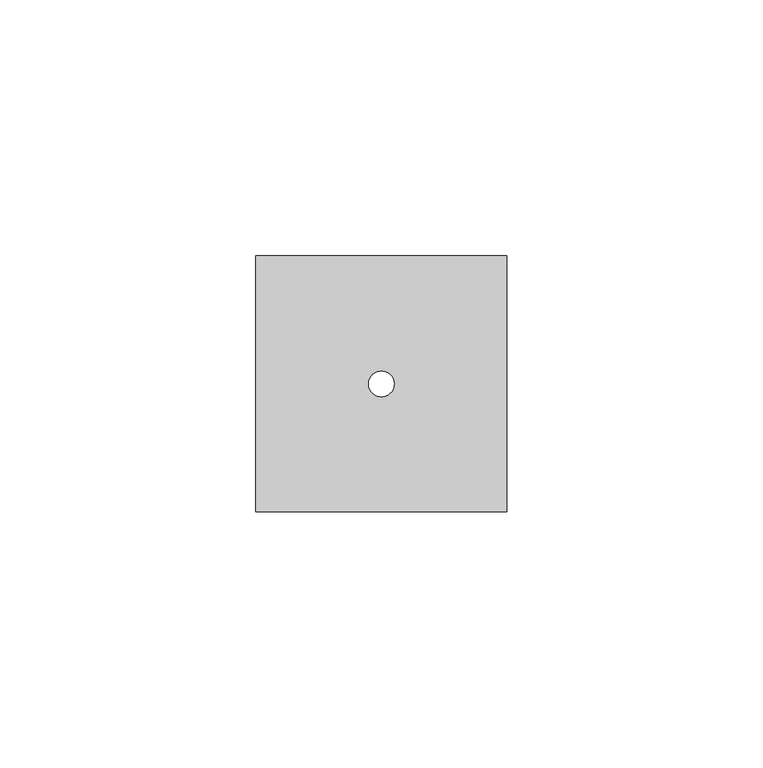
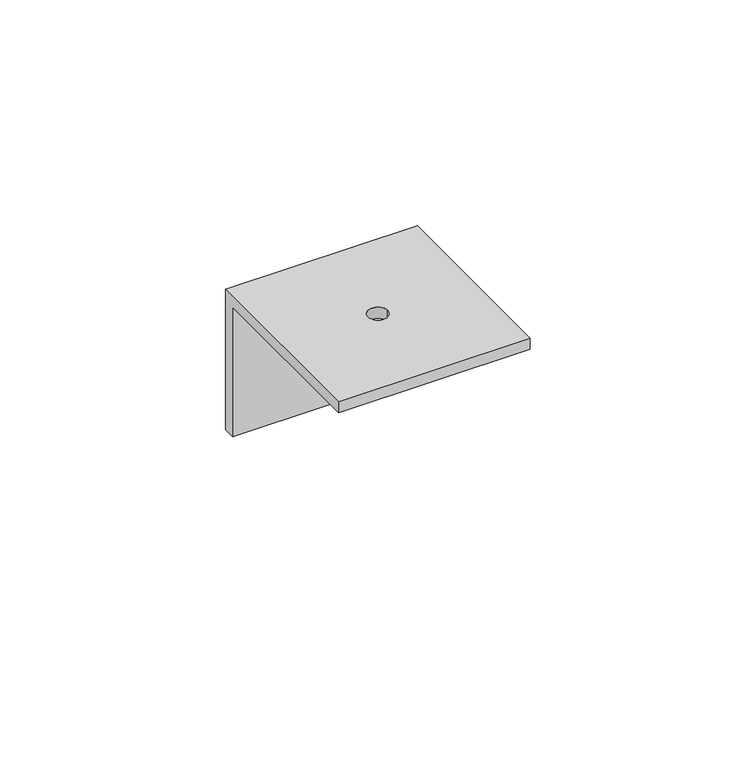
"""IFC4 building model written with IfcOpenShell, lengths in millimetres: proxy geometry, CV-EP8-02 END CAP : CV-EP8-02 END CAP."""

from ifc_helpers import new_model, si_unit, frame, origin, place, context, project, spatial, polyline, circle_curve, source, transform, mapped, element, save
from ifc_brep_helpers import plane_surface, revolved_surface, advanced_brep


def generic_models_478a6bcc(model_context):
    return source(origin(), model_context, "Body", "AdvancedBrep", [
        advanced_brep(
        [(49.0, 0.0, 25.0), (49.0, -50.0, 25.0), (49.0, -50.0, 22.0), (49.0, -3.0, 22.0), (49.0, -3.0, -13.0), (49.0, 0.0, -13.0), (0.0, 0.0, 25.0), (0.0, 0.0, -13.0), (0.0, -3.0, -13.0), (0.0, -3.0, 22.0), (0.0, -50.0, 22.0), (0.0, -50.0, 25.0), (27.0, -25.0, 25.0), (22.0, -25.0, 25.0), (22.0, -25.0, 22.0), (27.0, -25.0, 22.0)],
        [
            (0, 1),
            (1, 2),
            (2, 3),
            (3, 4),
            (4, 5),
            (5, 0),
            (6, 7),
            (7, 8),
            (8, 9),
            (9, 10),
            (10, 11),
            (11, 6),
            (0, 6),
            (11, 1),
            (12, 13, circle_curve(frame((24.5, -25.0, 25.0), z_axis=(0.0, 0.0, -1.0), x_axis=(1.0, 0.0, 0.0)), 2.5)),
            (13, 12, circle_curve(frame((24.5, -25.0, 25.0), z_axis=(0.0, 0.0, -1.0), x_axis=(1.0, 0.0, 0.0)), 2.5)),
            (10, 2),
            (9, 3),
            (14, 15, circle_curve(frame((24.5, -25.0, 22.0), z_axis=(0.0, 0.0, 1.0), x_axis=(1.0, 0.0, 0.0)), 2.5)),
            (15, 14, circle_curve(frame((24.5, -25.0, 22.0), z_axis=(0.0, 0.0, 1.0), x_axis=(1.0, 0.0, 0.0)), 2.5)),
            (8, 4),
            (7, 5),
            (14, 13),
            (12, 15),
        ],
        [
            plane_surface(frame((49.0, 0.0, 25.0), z_axis=(1.0, 0.0, 0.0), x_axis=(0.0, -1.0, 0.0))),
            plane_surface(frame((0.0, 0.0, 25.0), z_axis=(-1.0, 0.0, 0.0), x_axis=(0.0, 1.0, 0.0))),
            plane_surface(frame((49.0, 0.0, 25.0), z_axis=(0.0, 0.0, 1.0), x_axis=(-1.0, 0.0, 0.0))),
            plane_surface(frame((49.0, -50.0, 25.0), z_axis=(0.0, -1.0, 0.0), x_axis=(-1.0, 0.0, 0.0))),
            plane_surface(frame((49.0, -50.0, 22.0), z_axis=(0.0, 0.0, -1.0), x_axis=(-1.0, 0.0, 0.0))),
            plane_surface(frame((49.0, -3.0, 22.0), z_axis=(0.0, -1.0, 0.0), x_axis=(-1.0, 0.0, 0.0))),
            plane_surface(frame((49.0, -3.0, -13.0), z_axis=(0.0, 0.0, -1.0), x_axis=(-1.0, 0.0, 0.0))),
            plane_surface(frame((49.0, 0.0, -13.0), z_axis=(0.0, 1.0, 0.0), x_axis=(-1.0, 0.0, 0.0))),
            revolved_surface(polyline([(27.0, -25.0, 25.0), (27.0, -25.0, 22.0)]), (24.5, -25.0, 0.0), (0.0, 0.0, 1.0)),
        ],
        [
            (0, [[1, 2, 3, 4, 5, 6]]),
            (1, [[7, 8, 9, 10, 11, 12]]),
            (2, [[-1, 13, -12, 14], [15, 16]]),
            (3, [[-2, -14, -11, 17]]),
            (4, [[-3, -17, -10, 18], [19, 20]]),
            (5, [[-4, -18, -9, 21]]),
            (6, [[-5, -21, -8, 22]]),
            (7, [[-6, -22, -7, -13]]),
            (8, [[23, -15, 24, -19]]),
            (8, [[-23, -20, -24, -16]]),
        ],
    ),
    ])


if __name__ == "__main__":
    model = new_model("IFC4")
    model_context = context("Model", 3, world=origin())
    ifc_project = project(units=[si_unit("LENGTHUNIT", "METRE", prefix="MILLI")], contexts=[model_context])
    site = spatial("IfcSite", under=ifc_project)
    building = spatial("IfcBuilding", under=site)
    placement = place(None, origin())
    generic_models_shape = generic_models_478a6bcc(model_context)
    element("IfcBuildingElementProxy", 1, Name="CV-EP8-02 END CAP : CV-EP8-02 END CAP", ObjectType="CV-EP8-02 END CAP : CV-EP8-02 END CAP", at=placement, inside=building, context=model_context, shape_type="MappedRepresentation", body=[
        mapped(generic_models_shape, transform((0.0, 0.0, 0.0), x_axis=(1.0, 0.0, 0.0), y_axis=(0.0, 1.0, 0.0), z_axis=(0.0, 0.0, 1.0))),
    ])
    save(model, "model.ifc")
